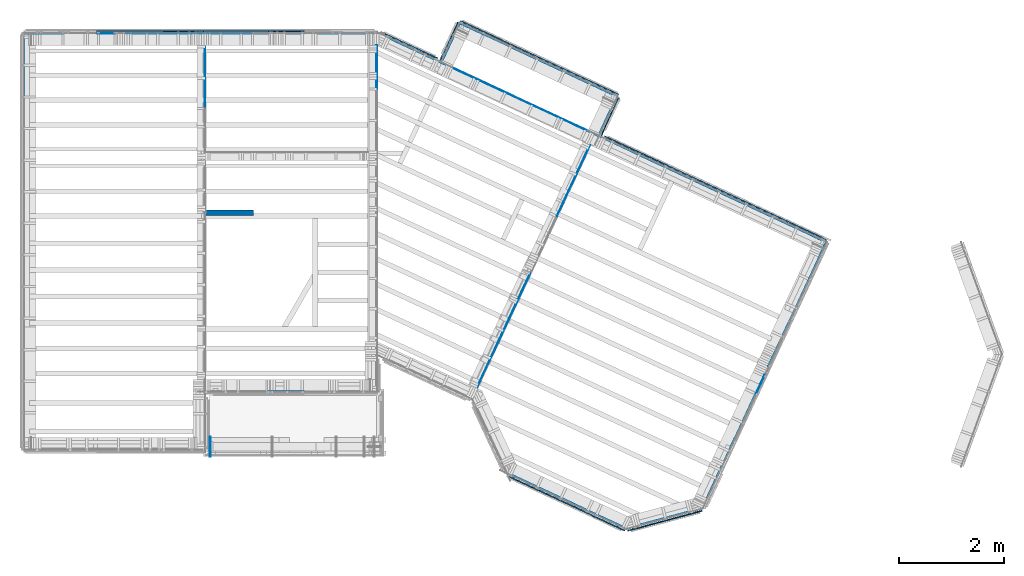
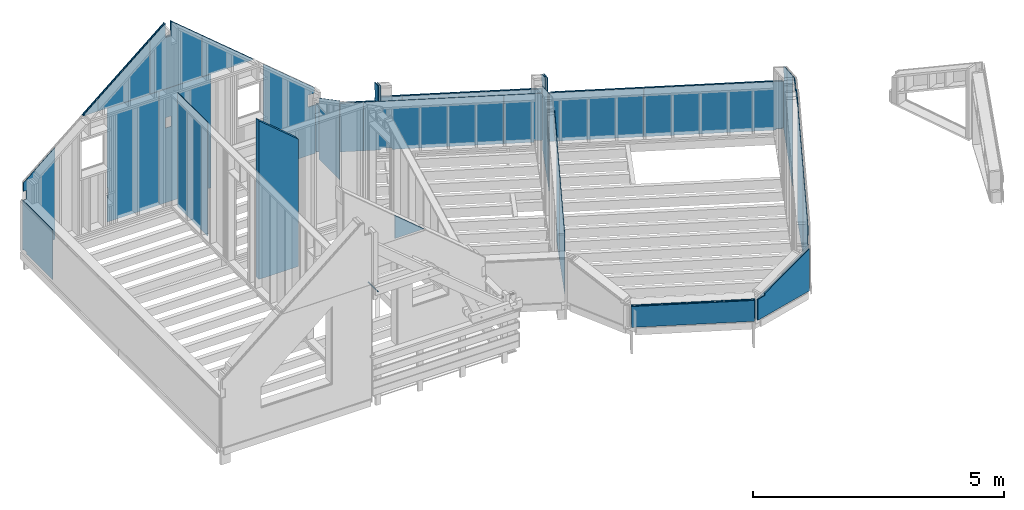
# One storey, part 1 of 24: 40 plates, 1 fastener, 1 wall.
"""IFC2X3 building model written with IfcOpenShell, lengths in metres."""

from ifc_helpers import new_model, si_unit, direction, frame, origin_with_axes, origin_2d_with_axis, place, context, subcontext, project, spatial, circle, extrude, faceted_brep, material, element, save


model = new_model("IFC2X3")

# Units and contexts
model_context = context("Model", 3, precision=1e-06, world=origin_with_axes(), true_north=direction((0.0, 1.0, 0.0)))
body_context = subcontext(model_context, "Body", "Model", "MODEL_VIEW")
ifc_project = project(units=[si_unit("LENGTHUNIT", "METRE"), si_unit("AREAUNIT", "SQUARE_METRE"), si_unit("VOLUMEUNIT", "CUBIC_METRE"), si_unit("PLANEANGLEUNIT", "RADIAN")], contexts=[model_context])

# Site, building, storey
site_placement = place(None, origin_with_axes())
site = spatial("IfcSite", under=ifc_project, at=site_placement, CompositionType="ELEMENT")
building_placement = place(site_placement, origin_with_axes())
building = spatial("IfcBuilding", under=site, at=building_placement, Name="Building 1", CompositionType="ELEMENT")
storey_placement = place(building_placement, origin_with_axes())
storey = spatial("IfcBuildingStorey", under=building, at=storey_placement, Name="Premier Etage", CompositionType="ELEMENT", Elevation=0.0)

# Plates
ifc_material_1 = material(Name="OSB")
plate_1_placement = place(storey_placement, frame((11.2728122, 6.7033052, 3.1614487), z_axis=(0.4226183, 0.9063078, 0.0), x_axis=(-0.9063078, 0.4226183, 0.0)))
element("IfcPlate", 1, at=plate_1_placement, inside=storey, material=ifc_material_1, Name="Panneau de contreventement MFP", context=body_context, shape_type="Brep", body=[
    faceted_brep([(2.8, -0.3514487, -0.006), (2.8, -0.3514487, 0.006), (0.15, -0.3514487, 0.006), (0.15, -0.3514487, -0.006), (0.15, -0.3114487, -0.006), (0.0, -0.3114487, -0.006), (0.0, 0.3514487, -0.006), (2.8, 0.3514487, -0.006), (0.0, 0.3514487, 0.006), (0.0, -0.3114487, 0.006), (0.15, -0.3114487, 0.006), (2.8, 0.3514487, 0.006)], [[[0, 1, 2, 3]], [[4, 5, 6, 7, 0, 3]], [[8, 9, 10, 2, 1, 11]], [[2, 10, 4, 3]], [[5, 4, 10, 9]], [[5, 9, 8, 6]], [[11, 7, 6, 8]], [[1, 0, 7, 11]]]),
])
plate_2_placement = place(storey_placement, frame((3.5312452, 7.902, 5.5854713), z_axis=(0.0, 1.0, 0.0), x_axis=(0.0, 0.0, 1.0)))
element("IfcPlate", 2, at=plate_2_placement, inside=storey, material=ifc_material_1, Name="Panneau de contreventement MFP", context=body_context, shape_type="Brep", body=[
    faceted_brep([(1.245, -0.1097453, -0.006), (1.5957883, -0.1097453, -0.006), (1.5957883, -0.1097453, 0.006), (1.245, -0.1097453, 0.006), (1.245, -0.2447453, -0.006), (1.245, -0.2447453, 0.006), (1.5959248, -0.2447453, -0.006), (1.5959248, -0.2447453, 0.006), (1.2995089, -0.598, 0.006), (1.2995089, -0.598, -0.006), (1.0019196, 0.598, 0.006), (0.0, 0.598, 0.006), (0.0, -0.598, 0.006), (1.0019196, 0.598, -0.006), (0.0, -0.598, -0.006), (0.0, 0.598, -0.006)], [[[0, 1, 2, 3]], [[4, 0, 3, 5]], [[6, 4, 5, 7]], [[6, 7, 8, 9]], [[7, 5, 3, 2, 10, 11, 12, 8]], [[2, 1, 13, 10]], [[14, 12, 11, 15]], [[10, 13, 15, 11]], [[4, 6, 9, 14, 15, 13, 1, 0]], [[9, 8, 12, 14]]]),
])
plate_3_placement = place(storey_placement, frame((2.3312452, 7.902, 5.5854713), z_axis=(0.0, 1.0, 0.0), x_axis=(0.0, 0.0, 1.0)))
element("IfcPlate", 3, at=plate_3_placement, inside=storey, material=ifc_material_1, Name="Panneau de contreventement MFP", context=body_context, shape_type="Brep", body=[
    faceted_brep([(0.2925893, -0.598, 0.006), (0.2925893, -0.598, -0.006), (1.2961525, 0.598, -0.006), (1.2961525, 0.598, 0.006), (0.0, -0.598, -0.006), (0.0, 0.598, -0.006), (0.0, 0.598, 0.006), (0.0, -0.598, 0.006)], [[[0, 1, 2, 3]], [[1, 4, 5, 2]], [[3, 2, 5, 6]], [[7, 0, 3, 6]], [[4, 7, 6, 5]], [[1, 0, 7, 4]]]),
])
plate_4_placement = place(storey_placement, frame((3.442, 7.078, 2.81), z_axis=(1.0, 0.0, 0.0), x_axis=(0.0, 0.0, 1.0)))
element("IfcPlate", 4, at=plate_4_placement, inside=storey, material=ifc_material_1, Name="Panneau de contreventement MFP", context=body_context, shape_type="Brep", body=[
    faceted_brep([(0.0, -0.598, 0.006), (2.7704713, -0.598, 0.006), (2.7704713, 0.598, 0.006), (0.0, 0.598, 0.006), (0.0, -0.598, -0.006), (0.0, 0.598, -0.006), (2.7704713, -0.598, -0.006), (2.7704713, 0.598, -0.006)], [[[0, 1, 2, 3]], [[4, 0, 3, 5]], [[6, 4, 5, 7]], [[5, 3, 2, 7]], [[1, 6, 7, 2]], [[6, 1, 0, 4]]]),
])
plate_5_placement = place(storey_placement, frame((4.7282658, 7.902, 5.5854713), z_axis=(0.0, 1.0, 0.0), x_axis=(0.0, 0.0, 1.0)))
element("IfcPlate", 5, at=plate_5_placement, inside=storey, material=ifc_material_1, Name="Panneau de contreventement MFP", context=body_context, shape_type="Brep", body=[
    faceted_brep([(0.9985632, -0.5950206, -0.006), (0.0, -0.5950206, -0.006), (0.0, 0.5950206, -0.006), (0.9985632, -0.5950206, 0.006), (0.0, 0.5950206, 0.006), (0.0, -0.5950206, 0.006)], [[[0, 1, 2]], [[3, 0, 2, 4]], [[5, 3, 4]], [[1, 5, 4, 2]], [[0, 3, 5, 1]]]),
])
plate_6_placement = place(storey_placement, frame((10.5011439, 5.2401193, 2.81), z_axis=(0.9063078, -0.4226183, 0.0), x_axis=(0.0, 0.0, 1.0)))
element("IfcPlate", 6, at=plate_6_placement, inside=storey, material=ifc_material_1, Name="Panneau de contreventement MFP", context=body_context, shape_type="Brep", body=[
    faceted_brep([(2.2018499, 0.598, 0.006), (1.511339, -0.598, 0.006), (1.511339, -0.598, -0.006), (2.2018499, 0.598, -0.006), (0.0, -0.598, 0.006), (0.0, -0.598, -0.006), (0.0, 0.598, 0.006), (0.0, 0.598, -0.006)], [[[0, 1, 2, 3]], [[2, 1, 4, 5]], [[1, 0, 6, 4]], [[5, 4, 6, 7]], [[0, 3, 7, 6]], [[3, 2, 5, 7]]]),
])
ifc_material_2 = material(Name="Mélèze")
plate_7_placement = place(storey_placement, frame((8.0686187, 7.743285, 2.81), z_axis=(-0.9063078, 0.4226183, 0.0), x_axis=(0.0, 0.0, 1.0)))
element("IfcPlate", 7, at=plate_7_placement, inside=storey, material=ifc_material_2, Name="Bardage", context=body_context, shape_type="Brep", body=[
    faceted_brep([(0.9178831, 0.4026089, 0.0105), (0.9178831, 0.4026089, -0.0105), (0.9178831, 0.3276089, -0.0105), (0.9178831, 0.3276089, 0.0105), (1.0775626, 0.4026089, 0.0105), (0.6978831, 0.3276089, 0.0105), (0.6978831, 0.4056089, 0.0105), (0.0, 0.4056089, 0.0105), (0.0, -0.4056089, 0.0105), (1.5441874, -0.4056089, 0.0105), (0.6978831, 0.3276089, -0.0105), (0.6978831, 0.4056089, -0.0105), (1.0775626, 0.4026089, -0.0105), (1.5441874, -0.4056089, -0.0105), (0.0, -0.4056089, -0.0105), (0.0, 0.4056089, -0.0105)], [[[0, 1, 2, 3]], [[4, 0, 3, 5, 6, 7, 8, 9]], [[10, 11, 6, 5]], [[2, 10, 5, 3]], [[1, 12, 13, 14, 15, 11, 10, 2]], [[1, 0, 4, 12]], [[12, 4, 9, 13]], [[14, 13, 9, 8]], [[6, 11, 15, 7]], [[14, 8, 7, 15]]]),
])
plate_8_placement = place(storey_placement, frame((11.1310327, 6.3152578, 2.81), z_axis=(0.9063078, -0.4226183, 0.0), x_axis=(0.0, 0.0, 1.0)))
element("IfcPlate", 8, at=plate_8_placement, inside=storey, material=ifc_material_2, Name="Bardage", context=body_context, shape_type="Brep", body=[
    faceted_brep([(0.6978831, -0.4056089, -0.0105), (0.6978831, -0.3276089, -0.0105), (0.6978831, -0.3276089, 0.0105), (0.6978831, -0.4056089, 0.0105), (0.9178831, -0.4026089, 0.0105), (1.0775626, -0.4026089, 0.0105), (1.5441874, 0.4056089, 0.0105), (0.0, 0.4056089, 0.0105), (0.0, -0.4056089, 0.0105), (0.9178831, -0.3276089, 0.0105), (0.9178831, -0.4026089, -0.0105), (0.9178831, -0.3276089, -0.0105), (1.0775626, -0.4026089, -0.0105), (0.0, -0.4056089, -0.0105), (0.0, 0.4056089, -0.0105), (1.5441874, 0.4056089, -0.0105)], [[[0, 1, 2, 3]], [[4, 5, 6, 7, 8, 3, 2, 9]], [[10, 4, 9, 11]], [[1, 11, 9, 2]], [[12, 10, 11, 1, 0, 13, 14, 15]], [[0, 3, 8, 13]], [[7, 6, 15, 14]], [[5, 12, 15, 6]], [[7, 14, 13, 8]], [[5, 4, 10, 12]]]),
])
plate_9_placement = place(storey_placement, frame((9.7913178, 7.4399276, 2.81), z_axis=(0.4226183, 0.9063078, 0.0), x_axis=(0.0, 0.0, 1.0)))
element("IfcPlate", 9, at=plate_9_placement, inside=storey, material=ifc_material_2, Name="Bardage", context=body_context, shape_type="Brep", body=[
    faceted_brep([(0.6978831, -1.654, -0.0105), (0.6978831, 1.654, -0.0105), (0.6978831, 1.654, 0.0105), (0.6978831, -1.654, 0.0105), (0.0, 1.654, -0.0105), (0.0, 1.654, 0.0105), (0.0, -1.654, -0.0105), (0.0, -1.654, 0.0105)], [[[0, 1, 2, 3]], [[2, 1, 4, 5]], [[1, 0, 6, 4]], [[0, 3, 7, 6]], [[4, 6, 7, 5]], [[3, 2, 5, 7]]]),
])
plate_10_placement = place(storey_placement, frame((12.1764576, -1.3514264, 2.81), z_axis=(0.258819, -0.9659258, 0.0), x_axis=(0.0, 0.0, 1.0)))
element("IfcPlate", 10, at=plate_10_placement, inside=storey, material=ifc_material_2, Name="Bardage", context=body_context, shape_type="Brep", body=[
    faceted_brep([(0.5536205, 0.5319502, -0.0105), (0.5086496, 0.5319502, -0.0105), (0.5086496, 0.5319502, 0.0105), (0.5536205, 0.5319502, 0.0105), (0.5086496, 0.7307542, -0.0105), (0.5086496, 0.7307542, 0.0105), (1.0222273, -0.7307542, -0.0105), (0.0, -0.7307542, -0.0105), (0.0, 0.7307542, -0.0105), (1.0222273, -0.7307542, 0.0105), (0.0, 0.7307542, 0.0105), (0.0, -0.7307542, 0.0105)], [[[0, 1, 2, 3]], [[1, 4, 5, 2]], [[4, 1, 0, 6, 7, 8]], [[0, 3, 9, 6]], [[2, 5, 10, 11, 9, 3]], [[5, 4, 8, 10]], [[6, 9, 11, 7]], [[7, 11, 10, 8]]]),
])
plate_11_placement = place(storey_placement, frame((3.3539187, 7.9435, 5.5854713), z_axis=(0.0, 1.0, 0.0), x_axis=(0.0, 0.0, 1.0)))
element("IfcPlate", 11, at=plate_11_placement, inside=storey, material=ifc_material_2, Name="Bardage", context=body_context, shape_type="Brep", body=[
    faceted_brep([(1.5957883, 0.0675813, 0.0105), (1.245, 0.0675813, 0.0105), (1.245, 0.0675813, -0.0105), (1.5957883, 0.0675813, -0.0105), (1.245, -0.0674187, 0.0105), (1.245, -0.0674187, -0.0105), (1.5959248, -0.0674187, 0.0105), (1.5959248, -0.0674187, -0.0105), (0.0, 1.9693678, -0.0105), (0.0, 1.9693678, 0.0105), (0.0, -1.9693678, -0.0105), (0.0, -1.9693678, 0.0105)], [[[0, 1, 2, 3]], [[1, 4, 5, 2]], [[4, 6, 7, 5]], [[0, 3, 8, 9]], [[3, 2, 5, 7, 10, 8]], [[7, 6, 11, 10]], [[1, 0, 9, 11, 6, 4]], [[10, 11, 9, 8]]]),
])
plate_12_placement = place(storey_placement, frame((12.7026049, 5.1227446, 3.4005274), z_axis=(0.4226183, 0.9063078, 0.0), x_axis=(0.9063078, -0.4226183, 0.0)))
element("IfcPlate", 12, at=plate_12_placement, inside=storey, material=ifc_material_1, Name="Panneau de contreventement MFP", context=body_context, shape_type="Brep", body=[
    faceted_brep([(0.0, 0.5905274, 0.006), (0.0, 0.5905274, -0.006), (0.0, -0.5905274, -0.006), (0.0, -0.5905274, 0.006), (2.8, -0.5905274, -0.006), (2.8, -0.5905274, 0.006), (2.65, 0.5905274, -0.006), (2.65, 0.5505274, -0.006), (2.8, 0.5505274, -0.006), (2.65, 0.5905274, 0.006), (2.65, 0.5505274, 0.006), (2.8, 0.5505274, 0.006)], [[[0, 1, 2, 3]], [[3, 2, 4, 5]], [[2, 1, 6, 7, 8, 4]], [[1, 0, 9, 6]], [[10, 11, 8, 7]], [[6, 9, 10, 7]], [[8, 11, 5, 4]], [[0, 3, 5, 11, 10, 9]]]),
])
plate_13_placement = place(storey_placement, frame((0.006, 7.298, 4.0228151), z_axis=(-1.0, 0.0, 0.0), x_axis=(0.0, 0.0, -1.0)))
element("IfcPlate", 13, at=plate_13_placement, inside=storey, material=ifc_material_1, Name="Panneau de contreventement MFP", context=body_context, shape_type="Brep", body=[
    faceted_brep([(0.0, 0.598, -0.006), (0.0, 0.598, 0.006), (1.2128151, 0.598, 0.006), (1.2128151, 0.598, -0.006), (0.0, -0.598, 0.006), (1.1728151, -0.598, 0.006), (1.1728151, -0.448, 0.006), (1.2128151, -0.448, 0.006), (0.0, -0.598, -0.006), (1.2128151, -0.448, -0.006), (1.1728151, -0.448, -0.006), (1.1728151, -0.598, -0.006)], [[[0, 1, 2, 3]], [[2, 1, 4, 5, 6, 7]], [[1, 0, 8, 4]], [[0, 3, 9, 10, 11, 8]], [[3, 2, 7, 9]], [[6, 5, 11, 10]], [[9, 7, 6, 10]], [[11, 5, 4, 8]]]),
])
plate_14_placement = place(storey_placement, frame((9.3621828, 2.7976094, 2.81), z_axis=(0.9063078, -0.4226183, 0.0), x_axis=(0.0, 0.0, 1.0)))
element("IfcPlate", 14, at=plate_14_placement, inside=storey, material=ifc_material_1, Name="Panneau de contreventement MFP", context=body_context, shape_type="Brep", body=[
    faceted_brep([(2.251, -0.598, 0.006), (2.8, -0.598, 0.006), (2.8, -0.594302, 0.006), (2.1116241, 0.598, 0.006), (0.0, 0.598, 0.006), (0.0, -0.0600387, 0.006), (2.251, -0.0600387, 0.006), (2.251, -0.598, -0.006), (2.251, -0.0600387, -0.006), (2.8, -0.598, -0.006), (0.0, -0.0600387, -0.006), (0.0, 0.598, -0.006), (2.1116241, 0.598, -0.006), (2.8, -0.594302, -0.006)], [[[0, 1, 2, 3, 4, 5, 6]], [[7, 0, 6, 8]], [[9, 7, 8, 10, 11, 12, 13]], [[5, 10, 8, 6]], [[4, 11, 10, 5]], [[0, 7, 9, 1]], [[1, 9, 13, 2]], [[3, 12, 11, 4]], [[12, 3, 2, 13]]]),
])
plate_15_placement = place(storey_placement, frame((2.5431423, 7.902, 2.81), z_axis=(0.0, 1.0, 0.0), x_axis=(0.0, 0.0, 1.0)))
element("IfcPlate", 15, at=plate_15_placement, inside=storey, material=ifc_material_1, Name="Panneau de contreventement MFP", context=body_context, shape_type="Brep", body=[
    faceted_brep([(0.835661, -0.5816424, 0.006), (0.585661, -0.5816424, 0.006), (0.585661, -0.5816424, -0.006), (0.835661, -0.5816424, -0.006), (0.585661, -0.598, -0.006), (0.0, -0.598, -0.006), (0.0, 0.598, -0.006), (2.7704713, 0.598, -0.006), (2.7704713, -0.598, -0.006), (0.835661, -0.598, -0.006), (0.585661, -0.598, 0.006), (0.0, -0.598, 0.006), (0.835661, -0.598, 0.006), (2.7704713, -0.598, 0.006), (0.0, 0.598, 0.006), (2.7704713, 0.598, 0.006)], [[[0, 1, 2, 3]], [[2, 4, 5, 6, 7, 8, 9, 3]], [[4, 10, 11, 5]], [[12, 0, 3, 9]], [[12, 9, 8, 13]], [[5, 11, 14, 6]], [[6, 14, 15, 7]], [[13, 8, 7, 15]], [[10, 1, 0, 12, 13, 15, 14, 11]], [[1, 10, 4, 2]]]),
])
plate_16_placement = place(storey_placement, frame((8.8550409, 1.7100401, 2.81), z_axis=(0.9063078, -0.4226183, 0.0), x_axis=(0.0, 0.0, 1.0)))
element("IfcPlate", 16, at=plate_16_placement, inside=storey, material=ifc_material_1, Name="Panneau de contreventement MFP", context=body_context, shape_type="Brep", body=[
    faceted_brep([(1.4188038, 0.598, 0.006), (1.4188038, 0.598, -0.006), (0.0, 0.598, -0.006), (0.0, 0.598, 0.006), (2.1093147, -0.598, 0.006), (2.1093147, -0.598, -0.006), (0.0, -0.598, -0.006), (0.0, -0.598, 0.006)], [[[0, 1, 2, 3]], [[4, 5, 1, 0]], [[5, 6, 2, 1]], [[7, 4, 0, 3]], [[6, 7, 3, 2]], [[5, 4, 7, 6]]]),
])
plate_17_placement = place(storey_placement, frame((13.1344141, 4.9671789, 2.81), z_axis=(0.4226183, 0.9063078, 0.0), x_axis=(0.0, 0.0, 1.0)))
element("IfcPlate", 17, at=plate_17_placement, inside=storey, material=ifc_material_2, Name="Bardage", context=body_context, shape_type="Brep", body=[
    faceted_brep([(1.1760549, -2.324903, 0.0105), (1.1760549, -2.324903, -0.0105), (1.1760549, 2.324903, -0.0105), (1.1760549, 2.324903, 0.0105), (0.0, -2.324903, -0.0105), (0.0, 2.324903, -0.0105), (0.0, -2.324903, 0.0105), (0.0, 2.324903, 0.0105)], [[[0, 1, 2, 3]], [[2, 1, 4, 5]], [[1, 0, 6, 4]], [[4, 6, 7, 5]], [[0, 3, 7, 6]], [[3, 2, 5, 7]]]),
])
plate_18_placement = place(storey_placement, frame((3.7431423, 7.902, 2.81), z_axis=(0.0, 1.0, 0.0), x_axis=(0.0, 0.0, 1.0)))
element("IfcPlate", 18, at=plate_18_placement, inside=storey, material=ifc_material_1, Name="Panneau de contreventement MFP", context=body_context, shape_type="Brep", body=[
    faceted_brep([(2.0707465, -0.3216424, 0.006), (1.8207465, -0.3216424, 0.006), (1.8207465, -0.3216424, -0.006), (2.0707465, -0.3216424, -0.006), (2.7704713, -0.598, -0.006), (0.0, -0.598, -0.006), (0.0, 0.598, -0.006), (2.7704713, 0.598, -0.006), (1.8207465, -0.4566424, -0.006), (2.0707465, -0.4566424, -0.006), (1.8207465, -0.4566424, 0.006), (2.0707465, -0.4566424, 0.006), (0.0, -0.598, 0.006), (2.7704713, -0.598, 0.006), (2.7704713, 0.598, 0.006), (0.0, 0.598, 0.006)], [[[0, 1, 2, 3]], [[4, 5, 6, 7], [8, 9, 3, 2]], [[10, 11, 9, 8]], [[1, 10, 8, 2]], [[12, 13, 14, 15], [11, 10, 1, 0]], [[11, 0, 3, 9]], [[13, 4, 7, 14]], [[6, 15, 14, 7]], [[5, 12, 15, 6]], [[4, 13, 12, 5]]]),
])
plate_19_placement = place(storey_placement, frame((1.556898, 7.902, 5.5854713), z_axis=(0.0, 1.0, 0.0), x_axis=(0.0, 0.0, 1.0)))
element("IfcPlate", 19, at=plate_19_placement, inside=storey, material=ifc_material_1, Name="Panneau de contreventement MFP", context=body_context, shape_type="Brep", body=[
    faceted_brep([(0.2892329, 0.1723472, 0.006), (0.2892329, 0.1723472, -0.006), (0.0, 0.1723472, -0.006), (0.0, 0.1723472, 0.006), (0.0, -0.1723472, -0.006), (0.0, -0.1723472, 0.006)], [[[0, 1, 2, 3]], [[3, 2, 4, 5]], [[2, 1, 4]], [[1, 0, 5, 4]], [[0, 3, 5]]]),
])
plate_20_placement = place(storey_placement, frame((15.0833764, 3.5887639, 2.81), z_axis=(0.9063078, -0.4226183, 0.0), x_axis=(0.0, 0.0, 1.0)))
element("IfcPlate", 20, at=plate_20_placement, inside=storey, material=ifc_material_1, Name="Panneau de contreventement MFP", context=body_context, shape_type="Brep", body=[
    faceted_brep([(1.5557344, -0.3751012, 0.006), (1.3910549, -0.3751012, 0.006), (1.3910549, -0.3751012, -0.006), (1.5557344, -0.3751012, -0.006), (1.3910549, -0.3051012, -0.006), (1.1760549, -0.3051012, -0.006), (1.1760549, -0.3901012, -0.006), (0.0, -0.3901012, -0.006), (0.0, 0.3901012, -0.006), (1.9975242, 0.3901012, -0.006), (1.3910549, -0.3051012, 0.006), (1.1760549, -0.3051012, 0.006), (1.9975242, 0.3901012, 0.006), (0.0, 0.3901012, 0.006), (0.0, -0.3901012, 0.006), (1.1760549, -0.3901012, 0.006)], [[[0, 1, 2, 3]], [[3, 2, 4, 5, 6, 7, 8, 9]], [[2, 1, 10, 4]], [[5, 4, 10, 11]], [[1, 0, 12, 13, 14, 15, 11, 10]], [[6, 5, 11, 15]], [[6, 15, 14, 7]], [[12, 9, 8, 13]], [[0, 3, 9, 12]], [[13, 8, 7, 14]]]),
])
plate_21_placement = place(storey_placement, frame((8.7315252, 7.8883268, 3.1614487), z_axis=(0.4226183, 0.9063078, 0.0), x_axis=(-0.9063078, 0.4226183, 0.0)))
element("IfcPlate", 21, at=plate_21_placement, inside=storey, material=ifc_material_1, Name="Panneau de contreventement MFP", context=body_context, shape_type="Brep", body=[
    faceted_brep([(0.0, -0.3514487, 0.006), (0.0, -0.3514487, -0.006), (0.354, -0.3514487, -0.006), (0.354, -0.3514487, 0.006), (0.504, 0.3514487, -0.006), (0.504, -0.3114487, -0.006), (0.354, -0.3114487, -0.006), (0.0, 0.3514487, -0.006), (0.354, -0.3114487, 0.006), (0.504, -0.3114487, 0.006), (0.504, 0.3514487, 0.006), (0.0, 0.3514487, 0.006)], [[[0, 1, 2, 3]], [[4, 5, 6, 2, 1, 7]], [[8, 9, 10, 11, 0, 3]], [[8, 3, 2, 6]], [[6, 5, 9, 8]], [[9, 5, 4, 10]], [[1, 0, 11, 7]], [[7, 11, 10, 4]]]),
])
plate_22_placement = place(storey_placement, frame((11.0923644, 6.3305307, 2.81), z_axis=(0.9063078, -0.4226183, 0.0), x_axis=(0.0, 0.0, 1.0)))
element("IfcPlate", 22, at=plate_22_placement, inside=storey, material=ifc_material_1, Name="Panneau de contreventement MFP", context=body_context, shape_type="Brep", body=[
    faceted_brep([(0.6978831, -0.3301089, 0.006), (0.6978831, -0.4081089, 0.006), (0.6978831, -0.4081089, -0.006), (0.6978831, -0.3301089, -0.006), (0.9178831, -0.4051089, 0.006), (1.0775626, -0.4051089, 0.006), (1.5470741, 0.4081089, 0.006), (0.0, 0.4081089, 0.006), (0.0, -0.4081089, 0.006), (0.9178831, -0.3301089, 0.006), (0.9178831, -0.4051089, -0.006), (0.9178831, -0.3301089, -0.006), (1.0775626, -0.4051089, -0.006), (0.0, -0.4081089, -0.006), (0.0, 0.4081089, -0.006), (1.5470741, 0.4081089, -0.006)], [[[0, 1, 2, 3]], [[4, 5, 6, 7, 8, 1, 0, 9]], [[10, 4, 9, 11]], [[3, 11, 9, 0]], [[12, 10, 11, 3, 2, 13, 14, 15]], [[10, 12, 5, 4]], [[5, 12, 15, 6]], [[2, 1, 8, 13]], [[8, 7, 14, 13]], [[6, 15, 14, 7]]]),
])
plate_23_placement = place(storey_placement, frame((8.1051739, 7.7234805, 2.81), z_axis=(-0.9063078, 0.4226183, 0.0), x_axis=(0.0, 0.0, 1.0)))
element("IfcPlate", 23, at=plate_23_placement, inside=storey, material=ifc_material_1, Name="Panneau de contreventement MFP", context=body_context, shape_type="Brep", body=[
    faceted_brep([(0.6978831, 0.4081089, 0.006), (0.6978831, 0.3301089, 0.006), (0.6978831, 0.3301089, -0.006), (0.6978831, 0.4081089, -0.006), (0.9178831, 0.3301089, -0.006), (0.9178831, 0.4051089, -0.006), (1.0775626, 0.4051089, -0.006), (1.5470741, -0.4081089, -0.006), (0.0, -0.4081089, -0.006), (0.0, 0.4081089, -0.006), (0.9178831, 0.3301089, 0.006), (0.9178831, 0.4051089, 0.006), (1.0775626, 0.4051089, 0.006), (1.5470741, -0.4081089, 0.006), (0.0, 0.4081089, 0.006), (0.0, -0.4081089, 0.006)], [[[0, 1, 2, 3]], [[2, 4, 5, 6, 7, 8, 9, 3]], [[10, 11, 5, 4]], [[5, 11, 12, 6]], [[6, 12, 13, 7]], [[0, 3, 9, 14]], [[7, 13, 15, 8]], [[15, 14, 9, 8]], [[10, 1, 0, 14, 15, 13, 12, 11]], [[1, 10, 4, 2]]]),
])
plate_24_placement = place(storey_placement, frame((10.1852343, 4.562649, 2.81), z_axis=(0.9063078, -0.4226183, 0.0), x_axis=(0.0, 0.0, 1.0)))
element("IfcPlate", 24, at=plate_24_placement, inside=storey, material=ifc_material_1, Name="Panneau de contreventement MFP", context=body_context, shape_type="Brep", body=[
    faceted_brep([(0.0, 0.1455058, -0.006), (2.3721749, 0.1455058, -0.006), (2.2041593, -0.1455058, -0.006), (0.0, -0.1455058, -0.006), (2.2041593, -0.1455058, 0.006), (0.0, -0.1455058, 0.006), (2.3721749, 0.1455058, 0.006), (0.0, 0.1455058, 0.006)], [[[0, 1, 2, 3]], [[2, 4, 5, 3]], [[6, 7, 5, 4]], [[6, 1, 0, 7]], [[1, 6, 4, 2]], [[7, 0, 3, 5]]]),
])
plate_25_placement = place(storey_placement, frame((13.9876386, 1.2389467, 5.5750704), z_axis=(0.9063078, -0.4226183, 0.0), x_axis=(0.0, 0.0, 1.0)))
element("IfcPlate", 25, at=plate_25_placement, inside=storey, material=ifc_material_1, Name="Panneau de contreventement MFP", context=body_context, shape_type="Brep", body=[
    faceted_brep([(0.1642349, -0.1973648, 0.006), (0.0, -0.1973648, 0.006), (0.0, -0.1973648, -0.006), (0.1642349, -0.1973648, -0.006), (0.0, 0.1973648, 0.006), (0.0, 0.1973648, -0.006), (0.1642349, 0.0179086, 0.006), (0.0606258, 0.1973648, 0.006), (0.1642349, 0.0179086, -0.006), (0.0606258, 0.1973648, -0.006)], [[[0, 1, 2, 3]], [[2, 1, 4, 5]], [[1, 0, 6, 7, 4]], [[0, 3, 8, 6]], [[3, 2, 5, 9, 8]], [[5, 4, 7, 9]], [[9, 7, 6, 8]]]),
])
plate_26_placement = place(storey_placement, frame((6.702, 7.2637372, 2.81), z_axis=(1.0, 0.0, 0.0), x_axis=(0.0, 0.0, 1.0)))
element("IfcPlate", 26, at=plate_26_placement, inside=storey, material=ifc_material_1, Name="Panneau de contreventement MFP", context=body_context, shape_type="Brep", body=[
    faceted_brep([(1.4921473, -0.4122628, -0.006), (1.9235861, 0.4122628, -0.006), (1.9235861, 0.4122628, 0.006), (1.4921473, -0.4122628, 0.006), (0.0, 0.4122628, -0.006), (0.0, 0.4122628, 0.006), (0.04, -0.4122628, -0.006), (0.04, -0.4049742, -0.006), (0.0, -0.4049742, -0.006), (0.04, -0.4049742, 0.006), (0.0, -0.4049742, 0.006), (0.04, -0.4122628, 0.006)], [[[0, 1, 2, 3]], [[2, 1, 4, 5]], [[1, 0, 6, 7, 8, 4]], [[8, 7, 9, 10]], [[8, 10, 5, 4]], [[7, 6, 11, 9]], [[3, 2, 5, 10, 9, 11]], [[0, 3, 11, 6]]]),
])
plate_27_placement = place(storey_placement, frame((4.9856432, 1.1068281, 5.5854713), z_axis=(0.0, 1.0, 0.0), x_axis=(0.0, 0.0, 1.0)))
element("IfcPlate", 27, at=plate_27_placement, inside=storey, material=ifc_material_1, Name="Panneau de contreventement MFP", context=body_context, shape_type="Brep", body=[
    faceted_brep([(0.5666326, -0.3376432, -0.006), (0.5666326, -0.3376432, 0.006), (0.0, -0.3376432, 0.006), (0.0, -0.3376432, -0.006), (0.0, 0.3376432, -0.006), (0.0, 0.3376432, 0.006)], [[[0, 1, 2, 3]], [[0, 3, 4]], [[2, 1, 5]], [[3, 2, 5, 4]], [[1, 0, 4, 5]]]),
])
plate_28_placement = place(storey_placement, frame((13.1426706, -0.5730932, 2.81), z_axis=(0.9063078, -0.4226183, 0.0), x_axis=(0.0, 0.0, 1.0)))
element("IfcPlate", 28, at=plate_28_placement, inside=storey, material=ifc_material_1, Name="Panneau de contreventement MFP", context=body_context, shape_type="Brep", body=[
    faceted_brep([(1.4481301, 0.5840146, -0.006), (1.2986408, 0.5840146, -0.006), (1.2986408, 0.5840146, 0.006), (1.4481301, 0.5840146, 0.006), (2.1305665, -0.598, 0.006), (2.1305665, -0.598, -0.006), (1.2986408, 0.4828092, 0.006), (1.0436408, 0.4828092, 0.006), (1.0436408, 0.598, 0.006), (0.0, 0.598, 0.006), (0.0, -0.598, 0.006), (1.2986408, 0.4828092, -0.006), (1.0436408, 0.4828092, -0.006), (0.0, -0.598, -0.006), (0.0, 0.598, -0.006), (1.0436408, 0.598, -0.006)], [[[0, 1, 2, 3]], [[0, 3, 4, 5]], [[3, 2, 6, 7, 8, 9, 10, 4]], [[2, 1, 11, 6]], [[7, 6, 11, 12]], [[1, 0, 5, 13, 14, 15, 12, 11]], [[8, 7, 12, 15]], [[8, 15, 14, 9]], [[13, 10, 9, 14]], [[5, 4, 10, 13]]]),
])
plate_29_placement = place(storey_placement, frame((14.2510505, 1.8038352, 5.5750704), z_axis=(0.9063078, -0.4226183, 0.0), x_axis=(0.0, 0.0, 1.0)))
element("IfcPlate", 29, at=plate_29_placement, inside=storey, material=ifc_material_1, Name="Panneau de contreventement MFP", context=body_context, shape_type="Brep", body=[
    faceted_brep([(0.1642349, 0.2499207, 0.006), (0.1642349, 0.2499207, -0.006), (0.0, 0.2499207, -0.006), (0.0, 0.2499207, 0.006), (0.1642349, 0.0345425, -0.006), (0.0, -0.2499207, -0.006), (0.1642349, 0.0345425, 0.006), (0.0, -0.2499207, 0.006)], [[[0, 1, 2, 3]], [[2, 1, 4, 5]], [[1, 0, 6, 4]], [[0, 3, 7, 6]], [[3, 2, 5, 7]], [[7, 5, 4, 6]]]),
])
plate_30_placement = place(storey_placement, frame((12.8860599, -1.1183251, 3.3265636), z_axis=(0.258819, -0.9659258, 0.0), x_axis=(-0.9659258, -0.258819, 0.0)))
element("IfcPlate", 30, at=plate_30_placement, inside=storey, material=ifc_material_1, Name="Panneau de contreventement MFP", context=body_context, shape_type="Brep", body=[
    faceted_brep([(0.0, -0.5165636, -0.006), (0.0, -0.5165636, 0.006), (0.0, 0.5165636, 0.006), (0.0, 0.5165636, -0.006), (1.3500952, 0.002914, -0.006), (1.3500952, -0.0155249, -0.006), (1.4915085, 0.5165636, -0.006), (1.4915085, 0.0369555, -0.006), (1.3997805, 0.002914, -0.006), (1.3500952, -0.0155249, 0.006), (1.3500952, 0.002914, 0.006), (1.3997805, 0.002914, 0.006), (1.4915085, 0.0369555, 0.006), (1.4915085, 0.5165636, 0.006)], [[[0, 1, 2, 3]], [[4, 5, 0, 3, 6, 7, 8]], [[1, 9, 10, 11, 12, 13, 2]], [[9, 5, 4, 10]], [[5, 9, 1, 0]], [[6, 3, 2, 13]], [[4, 8, 11, 10]], [[11, 8, 7, 12]], [[12, 7, 6, 13]]]),
])
plate_31_placement = place(storey_placement, frame((0.3705712, 7.902, 2.81), z_axis=(0.0, 1.0, 0.0), x_axis=(0.0, 0.0, 1.0)))
element("IfcPlate", 31, at=plate_31_placement, inside=storey, material=ifc_material_1, Name="Panneau de contreventement MFP", context=body_context, shape_type="Brep", body=[
    faceted_brep([(1.4228151, -0.3555712, 0.006), (1.4228151, -0.3555712, -0.006), (1.6262817, -0.3555712, -0.006), (1.6262817, -0.3555712, 0.006), (2.2355875, 0.3705712, -0.006), (2.2355875, 0.3705712, 0.006), (1.4228151, -0.2855712, -0.006), (1.2078151, -0.2855712, -0.006), (1.2078151, -0.3705712, -0.006), (0.0, -0.3705712, -0.006), (0.0, 0.3705712, -0.006), (1.2078151, -0.2855712, 0.006), (1.2078151, -0.3705712, 0.006), (1.4228151, -0.2855712, 0.006), (0.0, -0.3705712, 0.006), (0.0, 0.3705712, 0.006)], [[[0, 1, 2, 3]], [[3, 2, 4, 5]], [[2, 1, 6, 7, 8, 9, 10, 4]], [[8, 7, 11, 12]], [[1, 0, 13, 6]], [[7, 6, 13, 11]], [[8, 12, 14, 9]], [[0, 3, 5, 15, 14, 12, 11, 13]], [[5, 4, 10, 15]], [[15, 10, 9, 14]]]),
])
plate_32_placement = place(storey_placement, frame((6.1431423, 7.902, 2.81), z_axis=(0.0, 1.0, 0.0), x_axis=(0.0, 0.0, 1.0)))
element("IfcPlate", 32, at=plate_32_placement, inside=storey, material=ifc_material_1, Name="Panneau de contreventement MFP", context=body_context, shape_type="Brep", body=[
    faceted_brep([(1.4710549, 0.578, 0.006), (1.602531, 0.578, 0.006), (1.602531, 0.578, -0.006), (1.4710549, 0.578, -0.006), (1.4710549, 0.4228576, -0.006), (1.4710549, 0.4228576, 0.006), (2.5893121, -0.598, -0.006), (0.0, -0.598, -0.006), (0.0, 0.598, -0.006), (1.1810549, 0.598, -0.006), (1.1810549, 0.4228576, -0.006), (2.5893121, -0.598, 0.006), (1.1810549, 0.4228576, 0.006), (1.1810549, 0.598, 0.006), (0.0, 0.598, 0.006), (0.0, -0.598, 0.006)], [[[0, 1, 2, 3]], [[0, 3, 4, 5]], [[3, 2, 6, 7, 8, 9, 10, 4]], [[2, 1, 11, 6]], [[1, 0, 5, 12, 13, 14, 15, 11]], [[13, 12, 10, 9]], [[12, 5, 4, 10]], [[13, 9, 8, 14]], [[7, 15, 14, 8]], [[6, 11, 15, 7]]]),
])
plate_33_placement = place(storey_placement, frame((10.2941975, -1.0148928, 2.81), z_axis=(-0.4226183, -0.9063078, 0.0), x_axis=(0.0, 0.0, 1.0)))
element("IfcPlate", 33, at=plate_33_placement, inside=storey, material=ifc_material_2, Name="Bardage", context=body_context, shape_type="Brep", body=[
    faceted_brep([(0.5086496, -1.2313189, 0.0105), (0.5086496, -1.2313189, -0.0105), (0.5086496, 1.2313189, -0.0105), (0.5086496, 1.2313189, 0.0105), (0.0, -1.2313189, -0.0105), (0.0, 1.2313189, -0.0105), (0.0, -1.2313189, 0.0105), (0.0, 1.2313189, 0.0105)], [[[0, 1, 2, 3]], [[2, 1, 4, 5]], [[1, 0, 6, 4]], [[4, 6, 7, 5]], [[0, 3, 7, 6]], [[3, 2, 5, 7]]]),
])
plate_34_placement = place(storey_placement, frame((7.6200308, 7.4927878, 3.4005274), z_axis=(0.4226183, 0.9063078, 0.0), x_axis=(0.9063078, -0.4226183, 0.0)))
element("IfcPlate", 34, at=plate_34_placement, inside=storey, material=ifc_material_1, Name="Panneau de contreventement MFP", context=body_context, shape_type="Brep", body=[
    faceted_brep([(0.348194, 0.5505274, 0.006), (0.568194, 0.5505274, 0.006), (0.568194, 0.5505274, -0.006), (0.348194, 0.5505274, -0.006), (0.348194, 0.5905274, 0.006), (0.348194, 0.5905274, -0.006), (0.568194, 0.5905274, 0.006), (0.568194, 0.5905274, -0.006), (0.0, 0.5905274, 0.006), (0.0, -0.5905274, 0.006), (2.8, -0.5905274, 0.006), (2.8, 0.5905274, 0.006), (0.0, 0.5905274, -0.006), (0.0, -0.5905274, -0.006), (2.8, -0.5905274, -0.006), (2.8, 0.5905274, -0.006)], [[[0, 1, 2, 3]], [[4, 0, 3, 5]], [[1, 6, 7, 2]], [[6, 1, 0, 4, 8, 9, 10, 11]], [[4, 5, 12, 8]], [[8, 12, 13, 9]], [[9, 13, 14, 10]], [[2, 7, 15, 14, 13, 12, 5, 3]], [[7, 6, 11, 15]], [[15, 11, 10, 14]]]),
])
plate_35_placement = place(storey_placement, frame((11.4412847, -1.5039982, 3.0668248), z_axis=(-0.4226183, -0.9063078, 0.0), x_axis=(-0.9063078, 0.4226183, 0.0)))
element("IfcPlate", 35, at=plate_35_placement, inside=storey, material=ifc_material_1, Name="Panneau de contreventement MFP", context=body_context, shape_type="Brep", body=[
    faceted_brep([(0.0, 0.2168248, 0.006), (0.15, 0.2168248, 0.006), (0.15, 0.2168248, -0.006), (0.0, 0.2168248, -0.006), (0.15, 0.2568248, 0.006), (0.15, 0.2568248, -0.006), (0.0, -0.2568248, -0.006), (0.0, -0.2568248, 0.006), (2.3376379, 0.2568248, -0.006), (2.3376379, 0.2168248, -0.006), (2.4876379, 0.2168248, -0.006), (2.4876379, -0.2568248, -0.006), (2.3376379, 0.2168248, 0.006), (2.4876379, 0.2168248, 0.006), (2.3376379, 0.2568248, 0.006), (2.4876379, -0.2568248, 0.006)], [[[0, 1, 2, 3]], [[1, 4, 5, 2]], [[0, 3, 6, 7]], [[3, 2, 5, 8, 9, 10, 11, 6]], [[12, 13, 10, 9]], [[8, 14, 12, 9]], [[5, 4, 14, 8]], [[10, 13, 15, 11]], [[11, 15, 7, 6]], [[1, 0, 7, 15, 13, 12, 14, 4]]]),
])
plate_36_placement = place(storey_placement, frame((14.6640963, 2.6896149, 2.81), z_axis=(0.9063078, -0.4226183, 0.0), x_axis=(0.0, 0.0, 1.0)))
element("IfcPlate", 36, at=plate_36_placement, inside=storey, material=ifc_material_1, Name="Panneau de contreventement MFP", context=body_context, shape_type="Brep", body=[
    faceted_brep([(0.0, -0.598, 0.006), (1.9998336, -0.598, 0.006), (2.6903445, 0.598, 0.006), (0.0, 0.598, 0.006), (1.9998336, -0.598, -0.006), (2.6903445, 0.598, -0.006), (0.0, -0.598, -0.006), (0.0, 0.598, -0.006)], [[[0, 1, 2, 3]], [[1, 4, 5, 2]], [[6, 0, 3, 7]], [[2, 5, 7, 3]], [[4, 6, 7, 5]], [[4, 1, 0, 6]]]),
])
plate_37_placement = place(storey_placement, frame((13.6498125, 0.5144762, 2.81), z_axis=(0.9063078, -0.4226183, 0.0), x_axis=(0.0, 0.0, 1.0)))
element("IfcPlate", 37, at=plate_37_placement, inside=storey, material=ifc_material_1, Name="Panneau de contreventement MFP", context=body_context, shape_type="Brep", body=[
    faceted_brep([(2.8, -0.5574929, 0.006), (2.8, -0.598, 0.006), (2.8, -0.598, -0.006), (2.8, -0.5574929, -0.006), (0.0, -0.598, 0.006), (0.0, -0.598, -0.006), (2.1328759, 0.598, 0.006), (0.0, 0.598, 0.006), (2.1328759, 0.598, -0.006), (0.0, 0.598, -0.006)], [[[0, 1, 2, 3]], [[2, 1, 4, 5]], [[1, 0, 6, 7, 4]], [[0, 3, 8, 6]], [[5, 4, 7, 9]], [[6, 8, 9, 7]], [[3, 2, 5, 9, 8]]]),
])
plate_38_placement = place(storey_placement, frame((7.317301, 7.6797433, 2.81), z_axis=(0.4226183, 0.9063078, 0.0), x_axis=(0.0, 0.0, 1.0)))
element("IfcPlate", 38, at=plate_38_placement, inside=storey, material=ifc_material_2, Name="Bardage", context=body_context, shape_type="Brep", body=[
    faceted_brep([(1.1760549, -0.5935712, 0.0105), (1.1760549, -0.5935712, -0.0105), (1.1760549, 0.5935712, -0.0105), (1.1760549, 0.5935712, 0.0105), (0.0, -0.5935712, -0.0105), (0.0, 0.5935712, -0.0105), (0.0, -0.5935712, 0.0105), (0.0, 0.5935712, 0.0105)], [[[0, 1, 2, 3]], [[2, 1, 4, 5]], [[1, 0, 6, 4]], [[0, 3, 7, 6]], [[3, 2, 5, 7]], [[4, 6, 7, 5]]]),
])
plate_39_placement = place(storey_placement, frame((6.743678, 7.9014379, 3.4005274), z_axis=(0.4226183, 0.9063078, 0.0), x_axis=(0.9063078, -0.4226183, 0.0)))
element("IfcPlate", 39, at=plate_39_placement, inside=storey, material=ifc_material_1, Name="Panneau de contreventement MFP", context=body_context, shape_type="Brep", body=[
    faceted_brep([(0.0, 0.5505274, 0.006), (0.2, 0.5505274, 0.006), (0.2, 0.5505274, -0.006), (0.0, 0.5505274, -0.006), (0.9629483, 0.5905274, -0.006), (0.9629483, -0.5905274, -0.006), (0.0, -0.5905274, -0.006), (0.2, 0.5905274, -0.006), (0.9629483, 0.5905274, 0.006), (0.2, 0.5905274, 0.006), (0.9629483, -0.5905274, 0.006), (0.0, -0.5905274, 0.006)], [[[0, 1, 2, 3]], [[4, 5, 6, 3, 2, 7]], [[8, 4, 7, 9]], [[1, 9, 7, 2]], [[10, 8, 9, 1, 0, 11]], [[0, 3, 6, 11]], [[5, 10, 11, 6]], [[4, 8, 10, 5]]]),
])
plate_40_placement = place(storey_placement, frame((10.1613179, 6.3077662, 3.4005274), z_axis=(0.4226183, 0.9063078, 0.0), x_axis=(0.9063078, -0.4226183, 0.0)))
element("IfcPlate", 40, at=plate_40_placement, inside=storey, material=ifc_material_1, Name="Panneau de contreventement MFP", context=body_context, shape_type="Brep", body=[
    faceted_brep([(0.608194, 0.5505274, 0.006), (0.828194, 0.5505274, 0.006), (0.828194, 0.5505274, -0.006), (0.608194, 0.5505274, -0.006), (0.608194, 0.5905274, 0.006), (0.608194, 0.5905274, -0.006), (0.828194, 0.5905274, 0.006), (0.828194, 0.5905274, -0.006), (0.0, 0.5905274, 0.006), (0.0, -0.5905274, 0.006), (2.8, -0.5905274, 0.006), (2.8, 0.5905274, 0.006), (0.0, 0.5905274, -0.006), (0.0, -0.5905274, -0.006), (2.8, -0.5905274, -0.006), (2.8, 0.5905274, -0.006)], [[[0, 1, 2, 3]], [[4, 0, 3, 5]], [[1, 6, 7, 2]], [[6, 1, 0, 4, 8, 9, 10, 11]], [[4, 5, 12, 8]], [[8, 12, 13, 9]], [[9, 13, 14, 10]], [[2, 7, 15, 14, 13, 12, 5, 3]], [[7, 6, 11, 15]], [[15, 11, 10, 14]]]),
])

# Wall
ifc_material_3 = material(Name="NH II")
wall_placement = place(storey_placement, frame((3.9030363, 4.5, 6.8431149), z_axis=(0.0, 0.0, -1.0), x_axis=(-1.0, 0.0, 0.0)))
element("IfcWall", 41, at=wall_placement, inside=storey, material=ifc_material_3, Name="Surf_cloison", context=body_context, shape_type="Brep", body=[
    faceted_brep([(0.4550363, 0.054, 0.0), (-0.4550363, 0.054, 0.7636416), (-0.4550363, 0.054, 3.8621149), (0.4550363, 0.054, 3.8621149), (0.4550363, -0.054, 0.0), (0.4550363, -0.054, 3.8621149), (-0.4550363, -0.054, 0.7636416), (-0.4550363, -0.054, 3.8621149)], [[[0, 1, 2, 3]], [[4, 0, 3, 5]], [[6, 4, 5, 7]], [[2, 7, 5, 3]], [[1, 6, 7, 2]], [[1, 0, 4, 6]]]),
])

# Fastener
fastener_placement = place(storey_placement, frame((3.544, -0.134, 5.4324058), z_axis=(0.0, 0.0, -1.0), x_axis=(0.0, 1.0, 0.0)))
element("IfcFastener", 42, at=fastener_placement, inside=storey, Name="Tige filetée", context=body_context, shape_type="SweptSolid", body=[
    extrude(circle(Radius=0.009, at=origin_2d_with_axis()), frame((0.0, 0.0, 0.0), z_axis=(1.0, 0.0, 0.0), x_axis=(0.0, 1.0, 0.0)), (0.0, 0.0, 1.0), 0.38),
])

save(model, "model.ifc")
